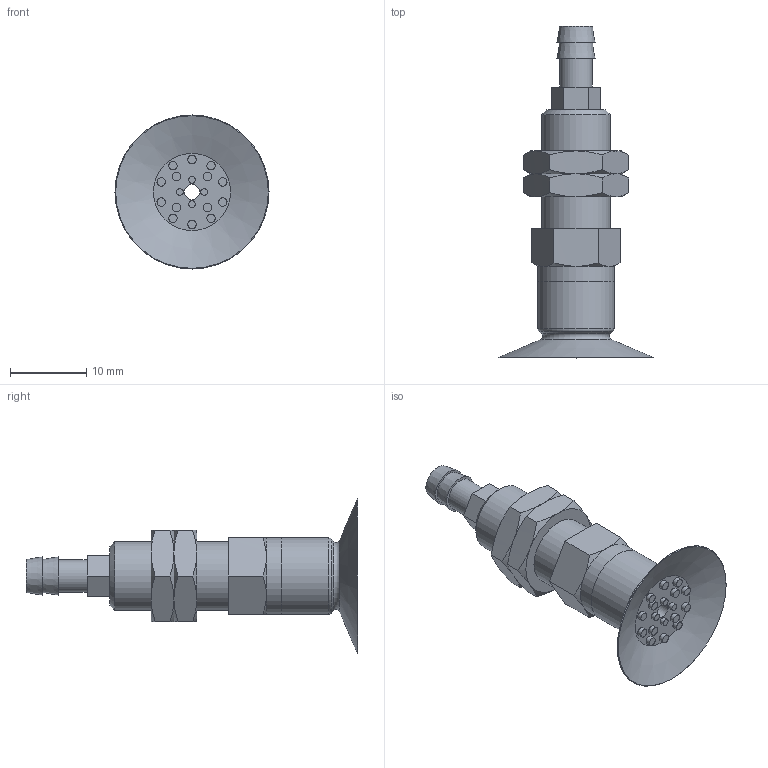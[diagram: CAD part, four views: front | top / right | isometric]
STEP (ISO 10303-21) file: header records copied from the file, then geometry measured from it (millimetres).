
FILE_DESCRIPTION(('STEP AP203'),'1');
FILE_NAME('.stp','2024-07-08T06:50:41',(' '),(' '),'Spatial InterOp 3D',' ',' ');
FILE_SCHEMA(('CONFIG_CONTROL_DESIGN'));
Length unit declared in the file: millimetre
Products named in the file (4): BBPATK-20A-※; Nut-10A-; BPATK-20A; BPAG-20A-※_3D
Assembly tree (4 placements, depth 2):
  BBPATK-20A-※
    Nut-10A-  x2
    BPATK-20A
    BPAG-20A-※_3D
Bounding box: 20.19 x 43.5 x 20.19 mm (x, y, z)
Volume: 2550.7 mm3; surface area: 3214.3 mm2
Topology: 4 solids, 4 shells, 145 faces, 283 edges, 174 vertices
Faces by surface type: plane 60, cone 43, cylinder 32, torus 10
Full cylindrical faces by diameter (mm): 0.9 x4, 1.1 x14, 2 x1, 3 x2, 4 x2, 4.134 x1, 4.3 x1, 6 x2, 7.917 x2, 9 x1, 10 x2
Entity records: 3288 total; most frequent: CARTESIAN_POINT 839, DIRECTION 492, ORIENTED_EDGE 346, AXIS2_PLACEMENT_3D 228, EDGE_LOOP 208, EDGE_CURVE 173, FACE_OUTER_BOUND 163, VERTEX_POINT 137
